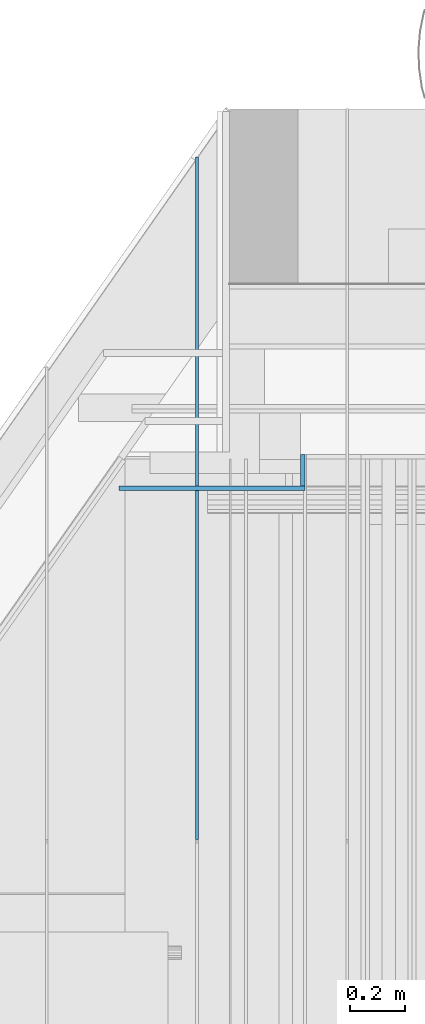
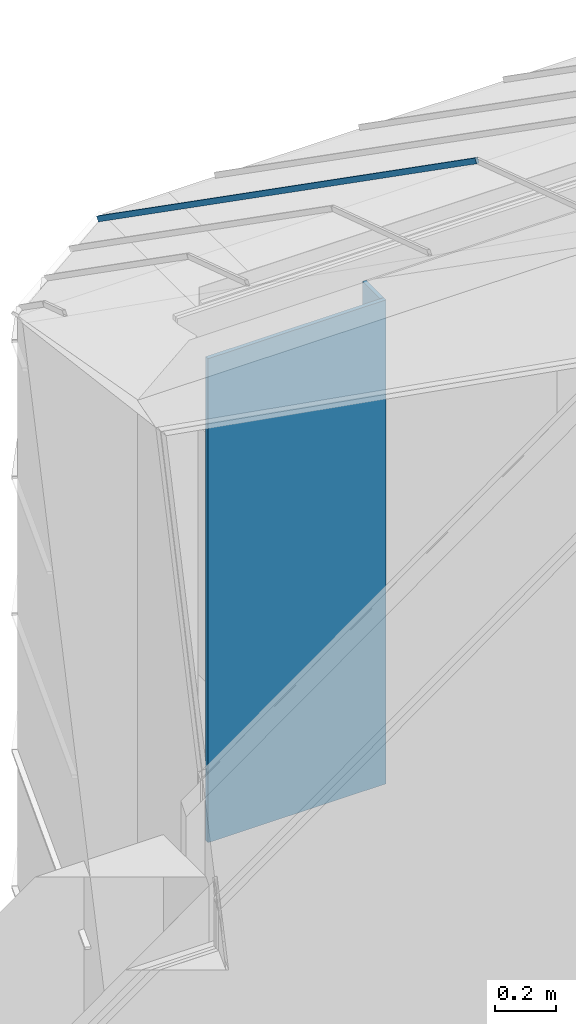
# One storey, part 272 of 583: 3 slabs.
"""IFC2X3 building model written with IfcOpenShell, lengths in metres."""

from ifc_helpers import new_model, entity, si_unit, converted_unit, derived_unit, money_unit, direction, frame, origin_with_axes, place, context, subcontext, project, spatial, faceted_brep, material, type_object, element, save


model = new_model("IFC2X3")

# Units and contexts
model_context = context("Model", 3, precision=1e-05, world=origin_with_axes(), true_north=direction((0.0, 1.0)))
body_context = subcontext(model_context, "Body", "Model", "MODEL_VIEW", scale=1.0)
ifc_project = project(units=[si_unit("LENGTHUNIT", "METRE"), si_unit("AREAUNIT", "SQUARE_METRE"), si_unit("VOLUMEUNIT", "CUBIC_METRE"), si_unit("ABSORBEDDOSEUNIT", "GRAY"), si_unit("AMOUNTOFSUBSTANCEUNIT", "MOLE"), si_unit("DOSEEQUIVALENTUNIT", "SIEVERT"), si_unit("ELECTRICCAPACITANCEUNIT", "FARAD"), si_unit("ELECTRICCHARGEUNIT", "COULOMB"), si_unit("ELECTRICCONDUCTANCEUNIT", "SIEMENS"), si_unit("ELECTRICCURRENTUNIT", "AMPERE"), si_unit("ELECTRICRESISTANCEUNIT", "OHM"), si_unit("ELECTRICVOLTAGEUNIT", "VOLT"), si_unit("ENERGYUNIT", "JOULE"), si_unit("FORCEUNIT", "NEWTON"), si_unit("FREQUENCYUNIT", "HERTZ"), si_unit("ILLUMINANCEUNIT", "LUX"), si_unit("INDUCTANCEUNIT", "HENRY"), si_unit("LUMINOUSFLUXUNIT", "LUMEN"), si_unit("LUMINOUSINTENSITYUNIT", "CANDELA"), si_unit("MAGNETICFLUXDENSITYUNIT", "TESLA"), si_unit("MAGNETICFLUXUNIT", "WEBER"), si_unit("MASSUNIT", "GRAM"), converted_unit("PLANEANGLEUNIT", "degree", entity("IfcReal", 0.0174532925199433), si_unit("PLANEANGLEUNIT", "RADIAN"), dimensions=[0, 0, 0, 0, 0, 0, 0]), si_unit("POWERUNIT", "WATT"), si_unit("PRESSUREUNIT", "PASCAL"), si_unit("RADIOACTIVITYUNIT", "BECQUEREL"), si_unit("SOLIDANGLEUNIT", "STERADIAN"), si_unit("THERMODYNAMICTEMPERATUREUNIT", "KELVIN"), si_unit("TIMEUNIT", "SECOND"), derived_unit("ACCELERATIONUNIT", [(si_unit("LENGTHUNIT", "METRE"), 1), (si_unit("TIMEUNIT", "SECOND"), -2)]), derived_unit("ANGULARVELOCITYUNIT", [(converted_unit("PLANEANGLEUNIT", "degree", entity("IfcReal", 0.0174532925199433), si_unit("PLANEANGLEUNIT", "RADIAN"), dimensions=[0, 0, 0, 0, 0, 0, 0]), 1), (si_unit("TIMEUNIT", "SECOND"), -1)]), derived_unit("CURVATUREUNIT", [(converted_unit("PLANEANGLEUNIT", "degree", entity("IfcReal", 0.0174532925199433), si_unit("PLANEANGLEUNIT", "RADIAN"), dimensions=[0, 0, 0, 0, 0, 0, 0]), 1), (si_unit("LENGTHUNIT", "METRE"), -1)]), derived_unit("DYNAMICVISCOSITYUNIT", [(si_unit("PRESSUREUNIT", "PASCAL"), 1), (si_unit("TIMEUNIT", "SECOND"), 1)]), derived_unit("HEATFLUXDENSITYUNIT", [(si_unit("POWERUNIT", "WATT"), 1), (si_unit("LENGTHUNIT", "METRE"), -2)]), derived_unit("HEATINGVALUEUNIT", [(si_unit("ENERGYUNIT", "JOULE"), 1), (si_unit("MASSUNIT", "GRAM"), -1)]), derived_unit("INTEGERCOUNTRATEUNIT", [(si_unit("TIMEUNIT", "SECOND"), -1)]), derived_unit("IONCONCENTRATIONUNIT", [(si_unit("MASSUNIT", "GRAM"), 1), (si_unit("VOLUMEUNIT", "CUBIC_METRE"), -1)]), derived_unit("ISOTHERMALMOISTURECAPACITYUNIT", [(si_unit("VOLUMEUNIT", "CUBIC_METRE"), 1), (si_unit("MASSUNIT", "GRAM"), -1)]), derived_unit("KINEMATICVISCOSITYUNIT", [(si_unit("AREAUNIT", "SQUARE_METRE"), 1), (si_unit("TIMEUNIT", "SECOND"), -1)]), derived_unit("LINEARFORCEUNIT", [(si_unit("FORCEUNIT", "NEWTON"), 1), (si_unit("LENGTHUNIT", "METRE"), -1)]), derived_unit("LINEARMOMENTUNIT", [(si_unit("FORCEUNIT", "NEWTON"), 1), (si_unit("LENGTHUNIT", "METRE"), -1)]), derived_unit("LINEARSTIFFNESSUNIT", [(si_unit("FORCEUNIT", "NEWTON"), 1), (si_unit("LENGTHUNIT", "METRE"), -1)]), derived_unit("LINEARVELOCITYUNIT", [(si_unit("LENGTHUNIT", "METRE"), 1), (si_unit("TIMEUNIT", "SECOND"), -1)]), derived_unit("LUMINOUSINTENSITYDISTRIBUTIONUNIT", [(si_unit("LUMINOUSINTENSITYUNIT", "CANDELA"), 1), (si_unit("LUMINOUSFLUXUNIT", "LUMEN"), -1)]), derived_unit("MASSDENSITYUNIT", [(si_unit("MASSUNIT", "GRAM"), 1), (si_unit("VOLUMEUNIT", "CUBIC_METRE"), -1)]), derived_unit("MASSFLOWRATEUNIT", [(si_unit("MASSUNIT", "GRAM"), 1), (si_unit("TIMEUNIT", "SECOND"), -1)]), derived_unit("MASSPERLENGTHUNIT", [(si_unit("MASSUNIT", "GRAM"), 1), (si_unit("LENGTHUNIT", "METRE"), -1)]), derived_unit("MODULUSOFELASTICITYUNIT", [(si_unit("FORCEUNIT", "NEWTON"), 1), (si_unit("AREAUNIT", "SQUARE_METRE"), -1)]), derived_unit("MODULUSOFLINEARSUBGRADEREACTIONUNIT", [(si_unit("FORCEUNIT", "NEWTON"), 1), (si_unit("LENGTHUNIT", "METRE"), -2)]), derived_unit("MODULUSOFROTATIONALSUBGRADEREACTIONUNIT", [(si_unit("FORCEUNIT", "NEWTON"), 1), (si_unit("LENGTHUNIT", "METRE"), 1)]), derived_unit("MODULUSOFSUBGRADEREACTIONUNIT", [(si_unit("FORCEUNIT", "NEWTON"), 1), (si_unit("VOLUMEUNIT", "CUBIC_METRE"), -1)]), derived_unit("MOISTUREDIFFUSIVITYUNIT", [(si_unit("VOLUMEUNIT", "CUBIC_METRE"), 1), (si_unit("TIMEUNIT", "SECOND"), -1)]), derived_unit("MOLECULARWEIGHTUNIT", [(si_unit("MASSUNIT", "GRAM"), 1), (si_unit("AMOUNTOFSUBSTANCEUNIT", "MOLE"), -1)]), derived_unit("PLANARFORCEUNIT", [(si_unit("FORCEUNIT", "NEWTON"), 1), (si_unit("LENGTHUNIT", "METRE"), -2)]), derived_unit("ROTATIONALFREQUENCYUNIT", [(si_unit("TIMEUNIT", "SECOND"), -1)]), derived_unit("ROTATIONALMASSUNIT", [(si_unit("MASSUNIT", "GRAM"), 1), (si_unit("LENGTHUNIT", "METRE"), 2)]), derived_unit("ROTATIONALSTIFFNESSUNIT", [(si_unit("FORCEUNIT", "NEWTON"), 1), (si_unit("LENGTHUNIT", "METRE"), 1), (converted_unit("PLANEANGLEUNIT", "degree", entity("IfcReal", 0.0174532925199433), si_unit("PLANEANGLEUNIT", "RADIAN"), dimensions=[0, 0, 0, 0, 0, 0, 0]), -1)]), derived_unit("SECTIONAREAINTEGRALUNIT", [(si_unit("LENGTHUNIT", "METRE"), 5)]), derived_unit("SECTIONMODULUSUNIT", [(si_unit("LENGTHUNIT", "METRE"), 3)]), derived_unit("SHEARMODULUSUNIT", [(si_unit("FORCEUNIT", "NEWTON"), 1), (si_unit("AREAUNIT", "SQUARE_METRE"), -1)]), derived_unit("SOUNDPOWERUNIT", [(si_unit("ENERGYUNIT", "JOULE"), 1), (si_unit("TIMEUNIT", "SECOND"), -1)]), derived_unit("SPECIFICHEATCAPACITYUNIT", [(si_unit("FORCEUNIT", "NEWTON"), 1), (si_unit("MASSUNIT", "GRAM"), -1), (si_unit("THERMODYNAMICTEMPERATUREUNIT", "KELVIN"), -1)]), derived_unit("TEMPERATUREGRADIENTUNIT", [(si_unit("THERMODYNAMICTEMPERATUREUNIT", "KELVIN"), 1), (si_unit("LENGTHUNIT", "METRE"), -1)]), derived_unit("THERMALADMITTANCEUNIT", [(si_unit("POWERUNIT", "WATT"), 1), (si_unit("AREAUNIT", "SQUARE_METRE"), -1), (si_unit("THERMODYNAMICTEMPERATUREUNIT", "KELVIN"), -1)]), derived_unit("THERMALCONDUCTANCEUNIT", [(si_unit("POWERUNIT", "WATT"), 1), (si_unit("LENGTHUNIT", "METRE"), -1), (si_unit("THERMODYNAMICTEMPERATUREUNIT", "KELVIN"), -1)]), derived_unit("THERMALEXPANSIONCOEFFICIENTUNIT", [(si_unit("THERMODYNAMICTEMPERATUREUNIT", "KELVIN"), -1)]), derived_unit("THERMALRESISTANCEUNIT", [(si_unit("AREAUNIT", "SQUARE_METRE"), 1), (si_unit("POWERUNIT", "WATT"), -1)]), derived_unit("THERMALTRANSMITTANCEUNIT", [(si_unit("POWERUNIT", "WATT"), 1), (si_unit("AREAUNIT", "SQUARE_METRE"), -1), (si_unit("THERMODYNAMICTEMPERATUREUNIT", "KELVIN"), -1)]), derived_unit("TORQUEUNIT", [(si_unit("FORCEUNIT", "NEWTON"), 1), (si_unit("LENGTHUNIT", "METRE"), 1)]), derived_unit("VAPORPERMEABILITYUNIT", [(si_unit("MASSUNIT", "GRAM"), 1), (si_unit("TIMEUNIT", "SECOND"), -1)]), derived_unit("VOLUMETRICFLOWRATEUNIT", [(si_unit("VOLUMEUNIT", "CUBIC_METRE"), 1), (si_unit("TIMEUNIT", "SECOND"), -1)]), derived_unit("WARPINGCONSTANTUNIT", [(si_unit("LENGTHUNIT", "METRE"), 6)]), derived_unit("WARPINGMOMENTUNIT", [(si_unit("FORCEUNIT", "NEWTON"), 1), (si_unit("LENGTHUNIT", "METRE"), 2)]), money_unit("GBP")], contexts=[model_context])

# Site, building, storey
site_placement = place(None, origin_with_axes())
site = spatial("IfcSite", under=ifc_project, at=site_placement, Name="Site", CompositionType="ELEMENT")
building_placement = place(site_placement, origin_with_axes())
building = spatial("IfcBuilding", under=site, at=building_placement, Name="Building01", CompositionType="ELEMENT")
storey_placement = place(building_placement, frame((0.0, 0.0, 20.78), z_axis=(0.0, 0.0, 1.0), x_axis=(1.0, 0.0, 0.0)))
storey = spatial("IfcBuildingStorey", under=building, at=storey_placement, Name="RL", CompositionType="ELEMENT", Elevation=20.78)

# Slabs
ifc_material_1 = material(Name="A_BSUK_CeilingSoffitFinishes_Suspended")
slab_type = type_object("IfcSlabType", Name="A-FloorsSlabs A_BSUK_Slabs", PredefinedType="FLOOR")
placement = place(storey_placement, frame((0.0, 0.0, -20.78), z_axis=(0.0, 0.0, 1.0), x_axis=(1.0, 0.0, 0.0)))
element("IfcSlab", 1, at=placement, inside=storey, type_object=slab_type, material=ifc_material_1, Name="A-FloorsSlabs A_BSUK_Slabs", ObjectType="CompoundSlabLeaf", context=body_context, shape_type="Brep", body=[
    faceted_brep([(2.798128, 20.065, 24.181874), (2.798128, 20.08, 24.181874), (2.798128, 20.08, 22.239976), (2.798128, 20.065, 22.239976), (3.474708, 20.065, 24.181874), (3.474708, 20.08, 24.181874), (3.474708, 20.065, 22.239976), (3.474708, 20.08, 22.239976)], [[[0, 1, 2, 3]], [[4, 5, 1, 0]], [[6, 7, 5, 4]], [[3, 2, 7, 6]], [[1, 5, 7, 2]], [[3, 6, 4, 0]]]),
])
element("IfcSlab", 2, at=placement, inside=storey, type_object=slab_type, material=ifc_material_1, Name="A-FloorsSlabs A_BSUK_Slabs", ObjectType="CompoundSlabLeaf", context=body_context, shape_type="Brep", body=[
    faceted_brep([(3.474708, 20.195, 24.181874), (3.459708, 20.195, 24.181874), (3.459708, 20.08, 24.181874), (3.474708, 20.08, 24.181874), (3.474708, 20.195, 22.239976), (3.459708, 20.195, 22.239976), (3.474708, 20.08, 22.239976), (3.459708, 20.08, 22.239976)], [[[0, 1, 2, 3]], [[4, 5, 1, 0]], [[6, 7, 5, 4]], [[3, 2, 7, 6]], [[1, 5, 7, 2]], [[3, 6, 4, 0]]]),
])
ifc_material_2 = material(Name="A_BSUK_Roofs")
slab_3_placement = place(storey_placement, frame((3.086475, 18.780461, 4.86574), z_axis=(0.0, 1.0, 0.0), x_axis=(1.0, 0.0, 0.0)))
element("IfcSlab", 3, at=slab_3_placement, inside=storey, type_object=slab_type, material=ifc_material_2, Name="A-FloorsSlabs A_BSUK_Slabs", ObjectType="A-FloorsSlabs A_BSUK_Slabs", context=body_context, shape_type="Brep", body=[
    faceted_brep([(0.0, 1.741455, 2.487055), (0.0, 1.725072, 2.498526), (0.0, -0.016383, 0.011471), (0.0, 0.0, 0.0), (-0.01, -0.016383, 0.011471), (-0.01, 0.0, 0.0), (-0.01, 1.725072, 2.498526), (-0.01, 1.741455, 2.487055)], [[[0, 1, 2, 3]], [[3, 2, 4, 5]], [[5, 4, 6, 7]], [[7, 6, 1, 0]], [[1, 6, 4, 2]], [[3, 5, 7, 0]]]),
])

save(model, "model.ifc")
